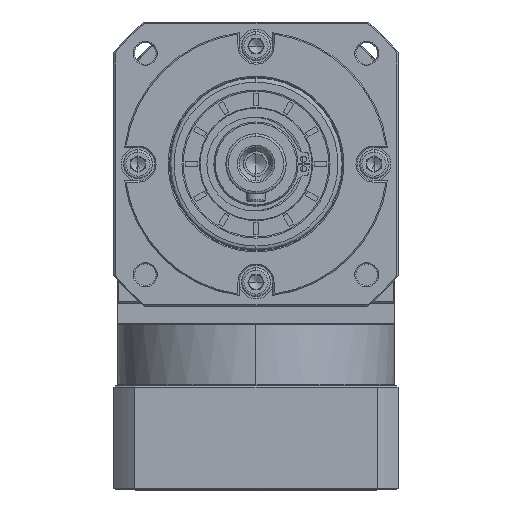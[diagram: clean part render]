
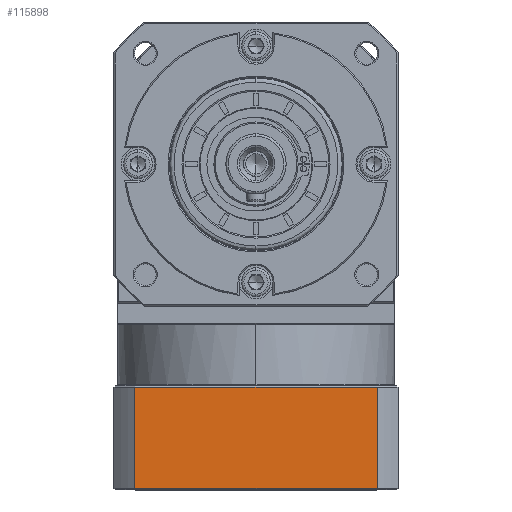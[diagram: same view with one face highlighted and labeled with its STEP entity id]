
A CAD part, top view. The second image highlights one B-rep face of the part: STEP entity #115898.
In plain terms, the highlighted planar face has unit normal (0, 0, 1).
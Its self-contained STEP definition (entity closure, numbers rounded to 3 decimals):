
#2209 = VECTOR ( 'NONE', #149303, 1000. ) ;
#8873 = DIRECTION ( 'NONE',  ( 1., 0., 0. ) ) ;
#12359 = EDGE_CURVE ( 'NONE', #110935, #86895, #153348, .T. ) ;
#23495 = CARTESIAN_POINT ( 'NONE',  ( -170.605, -156.027, 48.844 ) ) ;
#30821 = CARTESIAN_POINT ( 'NONE',  ( -279.857, -198.027, 48.844 ) ) ;
#32566 = AXIS2_PLACEMENT_3D ( 'NONE', #88567, #142389, #116092 ) ;
#38961 = DIRECTION ( 'NONE',  ( 0., -1., 0. ) ) ;
#61183 = PLANE ( 'NONE',  #32566 ) ;
#62117 = DIRECTION ( 'NONE',  ( 0., 1., 0. ) ) ;
#64833 = VECTOR ( 'NONE', #38961, 1000. ) ;
#64959 = ORIENTED_EDGE ( 'NONE', *, *, #96093, .F. ) ;
#70197 = ORIENTED_EDGE ( 'NONE', *, *, #12359, .F. ) ;
#74696 = VERTEX_POINT ( 'NONE', #106819 ) ;
#81572 = CARTESIAN_POINT ( 'NONE',  ( -170.605, -198.027, 48.844 ) ) ;
#83643 = VECTOR ( 'NONE', #8873, 1000. ) ;
#86895 = VERTEX_POINT ( 'NONE', #23495 ) ;
#87050 = EDGE_CURVE ( 'NONE', #86895, #96664, #148758, .T. ) ;
#88567 = CARTESIAN_POINT ( 'NONE',  ( -279.857, -198.527, 48.844 ) ) ;
#89634 = FACE_OUTER_BOUND ( 'NONE', #136472, .T. ) ;
#96093 = EDGE_CURVE ( 'NONE', #96664, #74696, #114861, .T. ) ;
#96664 = VERTEX_POINT ( 'NONE', #81572 ) ;
#106819 = CARTESIAN_POINT ( 'NONE',  ( -271.109, -198.027, 48.844 ) ) ;
#110935 = VERTEX_POINT ( 'NONE', #166007 ) ;
#113175 = LINE ( 'NONE', #127938, #146051 ) ;
#114861 = LINE ( 'NONE', #30821, #2209 ) ;
#115898 = ADVANCED_FACE ( 'NONE', ( #89634 ), #61183, .F. ) ;
#116092 = DIRECTION ( 'NONE',  ( -1., 0., 0. ) ) ;
#117355 = CARTESIAN_POINT ( 'NONE',  ( -170.605, 65.868, 48.844 ) ) ;
#125679 = CARTESIAN_POINT ( 'NONE',  ( -279.857, -156.027, 48.844 ) ) ;
#127938 = CARTESIAN_POINT ( 'NONE',  ( -271.109, -198.527, 48.844 ) ) ;
#136472 = EDGE_LOOP ( 'NONE', ( #162192, #70197, #169438, #64959 ) ) ;
#142389 = DIRECTION ( 'NONE',  ( 0., 0., -1. ) ) ;
#146051 = VECTOR ( 'NONE', #62117, 1000. ) ;
#148758 = LINE ( 'NONE', #117355, #64833 ) ;
#149303 = DIRECTION ( 'NONE',  ( -1., 0., 0. ) ) ;
#153348 = LINE ( 'NONE', #125679, #83643 ) ;
#153685 = EDGE_CURVE ( 'NONE', #74696, #110935, #113175, .T. ) ;
#162192 = ORIENTED_EDGE ( 'NONE', *, *, #87050, .F. ) ;
#166007 = CARTESIAN_POINT ( 'NONE',  ( -271.109, -156.027, 48.844 ) ) ;
#169438 = ORIENTED_EDGE ( 'NONE', *, *, #153685, .F. ) ;
